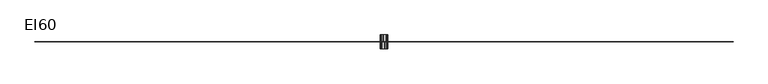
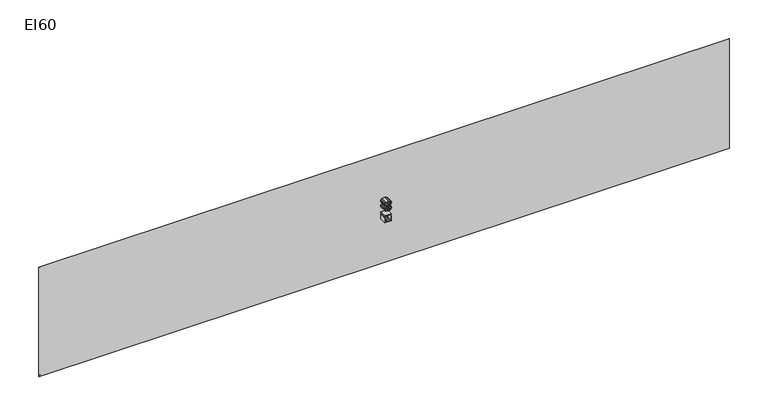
"""IFC4 building model written with IfcOpenShell, lengths in millimetres: proxy geometry, Fire_FireCompartmentationEI : EI60."""

import ifcopenshell
import ifcopenshell.guid

model = None  # the IFC model being written
_history = None  # IfcOwnerHistory: only IFC2X3 demands one
_inside = {}  # id of a spatial element -> (the spatial element, [elements in it])
_under = {}  # id of a project, library or spatial element -> (it, [spatial elements below it])
_declared = {}  # id of a project -> (the project, [libraries it declares])
_typed = {}  # id of a type object -> (the type object, [elements of that type])
_made_of = {}  # id of a material, layer set ... -> (it, [elements and type objects made of it])


def new_model(schema):
    """Start an empty IFC model of exactly this schema.

    Asked for "IFC4X3", IfcOpenShell would pick the latest addendum, in which some entities
    have other attributes; the version numbers below select the first issue.
    IFC2X3 requires an IfcOwnerHistory on every rooted entity: one is made here for all.
    """
    global model, _history
    if schema == "IFC4X3":
        model = ifcopenshell.file(schema_version=(4, 3, 0, 0))
    else:
        model = ifcopenshell.file(schema=schema)
    _inside.clear()
    _under.clear()
    _declared.clear()
    _typed.clear()
    _made_of.clear()
    _history = None
    if model.schema == "IFC2X3":
        org = make("IfcOrganization", Name="unknown")
        user = make(
            "IfcPersonAndOrganization",
            ThePerson=make("IfcPerson", FamilyName="unknown"),
            TheOrganization=org,
        )
        app = make(
            "IfcApplication",
            ApplicationDeveloper=org,
            Version="unknown",
            ApplicationFullName="unknown",
            ApplicationIdentifier="unknown",
        )
        _history = make(
            "IfcOwnerHistory",
            OwningUser=user,
            OwningApplication=app,
            ChangeAction="ADDED",
            CreationDate=0,
        )
    return model


def make(cls, **values):
    """One entity of the class cls with the attributes given. An attribute that is None is left unset."""
    return model.create_entity(
        cls, **{name: value for name, value in values.items() if value is not None}
    )


def rooted(cls, **values):
    """An entity with a GlobalId (a new one), such as an element, a storey or a relation."""
    return make(cls, GlobalId=ifcopenshell.guid.new(), OwnerHistory=_history, **values)


def si_unit(unit_type, name, prefix=None):
    """IfcSIUnit, for example si_unit("LENGTHUNIT", "METRE", prefix="MILLI")."""
    return make("IfcSIUnit", UnitType=unit_type, Prefix=prefix, Name=name)


def assignment(units):
    """IfcUnitAssignment: the units of a project."""
    return None if units is None else make("IfcUnitAssignment", Units=units)


def point(xyz):
    """IfcCartesianPoint."""
    return None if xyz is None else make("IfcCartesianPoint", Coordinates=xyz)


def direction(xyz):
    """IfcDirection."""
    return None if xyz is None else make("IfcDirection", DirectionRatios=xyz)


def frame(location, z_axis=None, x_axis=None):
    """IfcAxis2Placement3D, a coordinate frame: its origin and axes. An axis left out is left unset."""
    return make(
        "IfcAxis2Placement3D",
        Location=point(location),
        Axis=direction(z_axis),
        RefDirection=direction(x_axis),
    )


def frame_2d(location, x_axis=None):
    """IfcAxis2Placement2D, a coordinate frame in the plane: its origin and x axis."""
    return make(
        "IfcAxis2Placement2D", Location=point(location), RefDirection=direction(x_axis)
    )


def origin():
    """The frame at (0, 0, 0) with its axes left unset."""
    return frame((0.0, 0.0, 0.0))


def origin_with_axes():
    """The frame at (0, 0, 0) with the z axis (0, 0, 1) and the x axis (1, 0, 0) written out."""
    return frame((0.0, 0.0, 0.0), z_axis=(0.0, 0.0, 1.0), x_axis=(1.0, 0.0, 0.0))


def place(relative_to, where):
    """IfcLocalPlacement: puts the frame where relative to a parent placement (None: the world)."""
    return make(
        "IfcLocalPlacement", PlacementRelTo=relative_to, RelativePlacement=where
    )


def context(
    kind, dimensions, precision=None, world=None, true_north=None, identifier=None
):
    """IfcGeometricRepresentationContext, for example the 3D "Model" context."""
    return make(
        "IfcGeometricRepresentationContext",
        ContextIdentifier=identifier,
        ContextType=kind,
        CoordinateSpaceDimension=dimensions,
        Precision=precision,
        WorldCoordinateSystem=world,
        TrueNorth=true_north,
    )


def project(units=None, contexts=None):
    """IfcProject with its units and contexts."""
    return rooted(
        "IfcProject",
        Name="project",
        RepresentationContexts=contexts,
        UnitsInContext=assignment(units),
    )


def spatial(cls, under=None, at=None, **own):
    """A site, building, storey or space (cls), placed at a placement, below another one or the project."""
    s = rooted(cls, ObjectPlacement=at, **own)
    if under is not None:
        _under.setdefault(under.id(), (under, []))[1].append(s)
    return s


def polyline(points):
    """IfcPolyline through the points."""
    return make("IfcPolyline", Points=[point(p) for p in points])


def circle_curve(where, radius):
    """IfcCircle in the frame where."""
    return make("IfcCircle", Position=where, Radius=radius)


def trimmed(basis, trim1, trim2, sense, master):
    """IfcTrimmedCurve: the piece of a basis curve between two trims."""
    return make(
        "IfcTrimmedCurve",
        BasisCurve=basis,
        Trim1=trim1,
        Trim2=trim2,
        SenseAgreement=sense,
        MasterRepresentation=master,
    )


def segment(curve, same_sense, transition):
    """IfcCompositeCurveSegment."""
    return make(
        "IfcCompositeCurveSegment",
        Transition=transition,
        SameSense=same_sense,
        ParentCurve=curve,
    )


def composite_curve(segments, self_intersect=None):
    """IfcCompositeCurve: segments joined end to end."""
    return make("IfcCompositeCurve", Segments=segments, SelfIntersect=self_intersect)


def outline(outer, holes=None, kind="AREA"):
    """IfcArbitraryClosedProfileDef: a profile drawn as a closed curve; with holes, ...WithVoids."""
    if holes is None:
        return make("IfcArbitraryClosedProfileDef", ProfileType=kind, OuterCurve=outer)
    return make(
        "IfcArbitraryProfileDefWithVoids",
        ProfileType=kind,
        OuterCurve=outer,
        InnerCurves=holes,
    )


def extrude(swept, where, along, depth):
    """IfcExtrudedAreaSolid: the profile swept, set in the frame where, extruded along a direction by depth."""
    return make(
        "IfcExtrudedAreaSolid",
        SweptArea=swept,
        Position=where,
        ExtrudedDirection=direction(along),
        Depth=depth,
    )


def shape(context_of_items, identifier, shape_type, items):
    """IfcShapeRepresentation: the items that make up one representation, for example the "Body"."""
    return make(
        "IfcShapeRepresentation",
        ContextOfItems=context_of_items,
        RepresentationIdentifier=identifier,
        RepresentationType=shape_type,
        Items=items,
    )


def source(mapping_origin, context_of_items, identifier, shape_type, items):
    """IfcRepresentationMap: a shape defined once, which mapped items show again and again."""
    return make(
        "IfcRepresentationMap",
        MappingOrigin=mapping_origin,
        MappedRepresentation=shape(context_of_items, identifier, shape_type, items),
    )


def transform(
    local_origin,
    x_axis=None,
    y_axis=None,
    z_axis=None,
    scale=None,
    scale2=None,
    scale3=None,
    uniform=True,
):
    """IfcCartesianTransformationOperator3D, or its non-uniform kind. x_axis, y_axis, z_axis: its Axis1, 2, 3."""
    if uniform:
        return make(
            "IfcCartesianTransformationOperator3D",
            Axis1=direction(x_axis),
            Axis2=direction(y_axis),
            LocalOrigin=point(local_origin),
            Scale=scale,
            Axis3=direction(z_axis),
        )
    return make(
        "IfcCartesianTransformationOperator3DnonUniform",
        Axis1=direction(x_axis),
        Axis2=direction(y_axis),
        LocalOrigin=point(local_origin),
        Scale=scale,
        Axis3=direction(z_axis),
        Scale2=scale2,
        Scale3=scale3,
    )


def mapped(mapping_source, mapping_target):
    """IfcMappedItem: shows the shape of a source again, moved by a transform."""
    return make(
        "IfcMappedItem", MappingSource=mapping_source, MappingTarget=mapping_target
    )


def made_of(thing, what):
    """Note that an element or type object is made of a material, layer set ...; save() writes the relation."""
    if what is not None:
        _made_of.setdefault(what.id(), (what, []))[1].append(thing)
    return thing


def element(
    cls,
    number,
    at=None,
    inside=None,
    cuts=None,
    type_object=None,
    material=None,
    context=None,
    identifier="Body",
    shape_type=None,
    held_by="IfcProductDefinitionShape",
    body=None,
    shapes=None,
    **own,
):
    """One element of the class cls, such as IfcWall. Its Tag is "e" and its number.

    at: its placement. inside: the storey or other place that contains it. cuts: it is an
    opening in that element (IfcRelVoidsElement). A single representation is given by context,
    identifier, shape_type and body (its items); several are given by shapes. held_by: the class
    of the entity that holds the representations. save() writes the other relations.
    """
    e = rooted(cls, Tag="e%d" % number, ObjectPlacement=at, **own)
    if body is not None:
        shapes = [shape(context, identifier, shape_type, body)]
    if shapes is not None:
        e.Representation = make(held_by, Representations=shapes)
    if inside is not None:
        _inside.setdefault(inside.id(), (inside, []))[1].append(e)
    if cuts is not None:
        rooted(
            "IfcRelVoidsElement", RelatingBuildingElement=cuts, RelatedOpeningElement=e
        )
    if type_object is not None:
        _typed.setdefault(type_object.id(), (type_object, []))[1].append(e)
    return made_of(e, material)


def aggregate(whole, parts):
    """IfcRelAggregates: a whole, such as a stair, and the parts it consists of."""
    return rooted("IfcRelAggregates", RelatingObject=whole, RelatedObjects=parts)


def save(model, path):
    """Write the relations noted so far, then the file.

    IfcRelAggregates (storeys below a building ...), IfcRelContainedInSpatialStructure (elements
    in a storey), IfcRelDefinesByType, IfcRelAssociatesMaterial and IfcRelDeclares: one each for
    every whole, place, type object, material and project.
    """
    for whole, parts in _under.values():
        aggregate(whole, parts)
    for where, things in _inside.values():
        rooted(
            "IfcRelContainedInSpatialStructure",
            RelatedElements=things,
            RelatingStructure=where,
        )
    for kind, things in _typed.values():
        rooted("IfcRelDefinesByType", RelatedObjects=things, RelatingType=kind)
    for what, things in _made_of.values():
        rooted("IfcRelAssociatesMaterial", RelatedObjects=things, RelatingMaterial=what)
    for by, libraries in _declared.values():
        rooted("IfcRelDeclares", RelatingContext=by, RelatedDefinitions=libraries)
    model.write(path)


def ei60_9a6c1946(model_context):
    return source(origin(), model_context, "Body", "SweptSolid", [
        extrude(outline(polyline([(14947.5, -0.5), (0.0, -0.5), (0.0, 0.5), (14947.5, 0.5), (14947.5, -0.5)])), origin_with_axes(), (0.0, 0.0, 1.0), 2500.0),
        extrude(outline(composite_curve([segment(trimmed(circle_curve(frame_2d((28.9488523, 20.9372462)), 4.3000253), [point((27.7936078, 25.0791815))], [point((29.724042, 25.1668205))], False, "CARTESIAN"), True, "CONTINUOUS"), segment(trimmed(circle_curve(frame_2d((29.6833004, 19.2917407)), 5.875221), [point((29.724042, 25.1668205))], [point((32.6283278, 24.3755421))], False, "CARTESIAN"), True, "CONTINUOUS"), segment(trimmed(circle_curve(frame_2d((32.8576867, 20.8662932)), 3.5167361), [point((32.6283278, 24.3755421))], [point((30.6249304, 23.5833197))], True, "CARTESIAN"), True, "CONTINUOUS"), segment(trimmed(circle_curve(frame_2d((10.876956, 53.8348059)), 36.1266511), [point((30.6249304, 23.5833197))], [point((25.8949704, 20.9776277))], False, "CARTESIAN"), True, "CONTINUOUS"), segment(trimmed(circle_curve(frame_2d((21.9041848, 33.757735)), 13.3887083), [point((25.8949704, 20.9776277))], [point((22.6832699, 20.3917132))], False, "CARTESIAN"), True, "CONTINUOUS"), segment(trimmed(circle_curve(frame_2d((20.9508608, 39.8789486)), 19.5640891), [point((22.6832699, 20.3917132))], [point((20.0109811, 20.3374489))], False, "CARTESIAN"), True, "CONTINUOUS"), segment(trimmed(circle_curve(frame_2d((18.2722891, 30.1747881)), 9.9898094), [point((20.0109811, 20.3374489))], [point((25.2489423, 23.0247809))], True, "CARTESIAN"), True, "CONTINUOUS"), segment(trimmed(circle_curve(frame_2d((30.9774835, 18.5323372)), 7.2799887), [point((25.2489423, 23.0247809))], [point((27.7936078, 25.0791815))], False, "CARTESIAN"), True, "CONTINUOUS")], self_intersect=False)), frame((0.0, -0.6, 0.0), z_axis=(0.0, 1.0, 0.0), x_axis=(0.0, 0.0, 1.0)), (0.0, 0.0, 1.0), 1.2),
        extrude(outline(composite_curve([segment(trimmed(circle_curve(frame_2d((34.8553456, 17.4656787)), 4.3823741), [point((35.4675373, 21.8050824))], [point((32.7666638, 21.3182897))], True, "CARTESIAN"), True, "CONTINUOUS"), segment(trimmed(circle_curve(frame_2d((31.0348418, 25.2412811)), 4.2882478), [point((32.7666638, 21.3182897))], [point((31.0556823, 20.9530839))], False, "CARTESIAN"), True, "CONTINUOUS"), segment(trimmed(circle_curve(frame_2d((30.8661112, 26.3534755)), 5.4037178), [point((31.0556823, 20.9530839))], [point((28.4262544, 21.5319337))], False, "CARTESIAN"), True, "CONTINUOUS"), segment(trimmed(circle_curve(frame_2d((28.9867579, 26.8058524)), 5.3036197), [point((28.4262544, 21.5319337))], [point((30.6443727, 21.7679267))], True, "CARTESIAN"), True, "CONTINUOUS"), segment(trimmed(circle_curve(frame_2d((33.7648144, 18.2895153)), 4.6729544), [point((30.6443727, 21.7679267))], [point((32.5632515, 22.8053485))], False, "CARTESIAN"), True, "CONTINUOUS"), segment(trimmed(circle_curve(frame_2d((33.1708117, 19.8529583)), 3.0142556), [point((32.5632515, 22.8053485))], [point((35.4675373, 21.8050824))], False, "CARTESIAN"), True, "CONTINUOUS")], self_intersect=False)), frame((0.0, -0.6, 0.0), z_axis=(0.0, 1.0, 0.0), x_axis=(0.0, 0.0, 1.0)), (0.0, 0.0, 1.0), 1.2),
        extrude(outline(composite_curve([segment(trimmed(circle_curve(frame_2d((26.35828, 17.8501973)), 2.1465167), [point((27.6612009, 19.5560492))], [point((26.6135063, 19.9814864))], True, "CARTESIAN"), True, "CONTINUOUS"), segment(trimmed(circle_curve(frame_2d((25.771558, 13.6747037)), 6.3627341), [point((26.6135063, 19.9814864))], [point((25.1811141, 20.0099828))], True, "CARTESIAN"), True, "CONTINUOUS"), segment(trimmed(circle_curve(frame_2d((27.6708438, 15.0485986)), 5.5510437), [point((25.1811141, 20.0099828))], [point((27.8117089, 20.5978547))], False, "CARTESIAN"), True, "CONTINUOUS"), segment(trimmed(circle_curve(frame_2d((27.9681735, 17.2267436)), 3.3747401), [point((27.8117089, 20.5978547))], [point((29.507487, 20.2299728))], False, "CARTESIAN"), True, "CONTINUOUS"), segment(trimmed(circle_curve(frame_2d((31.5381431, 23.6896238)), 4.0115769), [point((29.507487, 20.2299728))], [point((32.2223971, 19.7368341))], True, "CARTESIAN"), True, "CONTINUOUS"), segment(trimmed(circle_curve(frame_2d((29.9256715, 21.6889582)), 3.0142556), [point((32.2223971, 19.7368341))], [point((29.3181113, 18.736568))], False, "CARTESIAN"), True, "CONTINUOUS"), segment(trimmed(circle_curve(frame_2d((30.5170043, 23.2454076)), 4.6655095), [point((29.3181113, 18.736568))], [point((27.6612009, 19.5560492))], False, "CARTESIAN"), True, "CONTINUOUS")], self_intersect=False)), frame((0.0, -0.6, 0.0), z_axis=(0.0, 1.0, 0.0), x_axis=(0.0, 0.0, 1.0)), (0.0, 0.0, 1.0), 1.2),
        extrude(outline(composite_curve([segment(trimmed(circle_curve(frame_2d((32.8467056, 19.4711557)), 3.5167361), [point((30.6139493, 16.7541292))], [point((32.6173467, 15.9619068))], True, "CARTESIAN"), True, "CONTINUOUS"), segment(trimmed(circle_curve(frame_2d((29.6723193, 21.0457082)), 5.875221), [point((32.6173467, 15.9619068))], [point((29.7130609, 15.1706284))], False, "CARTESIAN"), True, "CONTINUOUS"), segment(trimmed(circle_curve(frame_2d((28.9378712, 19.4002026)), 4.3000253), [point((29.7130609, 15.1706284))], [point((27.7826267, 15.2582674))], False, "CARTESIAN"), True, "CONTINUOUS"), segment(trimmed(circle_curve(frame_2d((30.9665024, 21.8051117)), 7.2799887), [point((27.7826267, 15.2582674))], [point((25.2379612, 17.312668))], False, "CARTESIAN"), True, "CONTINUOUS"), segment(trimmed(circle_curve(frame_2d((18.261308, 10.1626608)), 9.9898094), [point((25.2379612, 17.312668))], [point((20.0, 20.0))], True, "CARTESIAN"), True, "CONTINUOUS"), segment(trimmed(circle_curve(frame_2d((20.9398797, 0.4585003)), 19.5640891), [point((20.0, 20.0))], [point((22.6722888, 19.9457357))], False, "CARTESIAN"), True, "CONTINUOUS"), segment(trimmed(circle_curve(frame_2d((21.8932037, 6.5797139)), 13.3887083), [point((22.6722888, 19.9457357))], [point((25.8839893, 19.3598212))], False, "CARTESIAN"), True, "CONTINUOUS"), segment(trimmed(circle_curve(frame_2d((10.8659749, -13.497357)), 36.1266511), [point((25.8839893, 19.3598212))], [point((30.6139493, 16.7541292))], False, "CARTESIAN"), True, "CONTINUOUS")], self_intersect=False)), frame((0.0, -0.6, 0.0), z_axis=(0.0, 1.0, 0.0), x_axis=(0.0, 0.0, 1.0)), (0.0, 0.0, 1.0), 1.2),
        extrude(outline(polyline([(1022.7960798, 7398.75), (1022.7960798, 7549.4344652), (1131.1005392, 7549.4344652), (1131.1005392, 7530.5989071), (1041.6316379, 7530.5989071), (1041.6316379, 7485.8644565), (1126.3916496, 7485.8644565), (1126.3916496, 7467.0288983), (1041.6316379, 7467.0288983), (1041.6316379, 7417.5855582), (1133.4549839, 7417.5855582), (1133.4549839, 7398.75), (1022.7960798, 7398.75)])), frame((0.0, 0.0, 0.0), z_axis=(0.0, 1.0, 0.0), x_axis=(0.0, 0.0, 1.0)), (0.0, 0.0, 1.0), 150.0),
        extrude(outline(polyline([(7398.75, 150.0), (7549.4344652, 150.0), (7549.4344652, 0.0), (7398.75, 0.0), (7398.75, 150.0)])), frame((0.0, 0.0, 1164.0627659), z_axis=(0.0, 0.0, 1.0), x_axis=(1.0, 0.0, 0.0)), (0.0, 0.0, 1.0), 18.8355582),
        extrude(outline(polyline([(1368.8994608, 7509.4089041), (1350.0639027, 7507.0544594), (1342.926992, 7522.7630206), (1334.3829326, 7528.6399354), (1324.0546456, 7530.5989071), (1307.0584975, 7526.0371703), (1294.2010217, 7508.9122635), (1290.296874, 7494.8821639), (1288.8483387, 7475.3430314), (1305.4582108, 7490.3710109), (1326.0412084, 7495.2822355), (1343.4420268, 7491.9253123), (1358.046942, 7481.8545427), (1367.9521647, 7466.4678783), (1371.2539056, 7447.1632706), (1369.6996042, 7433.6757969), (1365.0366999, 7421.1724076), (1357.6514688, 7410.5682091), (1347.9301871, 7402.7783078), (1336.3143131, 7397.9912434), (1323.2453052, 7396.3955552), (1301.8759598, 7400.6261982), (1284.856819, 7413.318127), (1273.7237902, 7435.7221405), (1270.0127805, 7469.0890375), (1274.1330589, 7506.6038039), (1286.4938939, 7532.254376), (1303.3704805, 7545.1394429), (1325.231868, 7549.4344652), (1341.7589666, 7546.7765178), (1354.9935214, 7538.8026756), (1364.2641477, 7526.1383379), (1368.8994608, 7509.4089041)]), holes=[polyline([(1288.8483387, 7447.4575762), (1293.2077403, 7431.1420097), (1304.7960232, 7419.2962094), (1321.7737773, 7415.2311134), (1334.2035902, 7417.3372378), (1343.9754557, 7423.6556111), (1350.3076245, 7433.5884249), (1352.4183475, 7446.5378712), (1350.3352157, 7458.9676841), (1344.0858203, 7468.445244), (1334.1484079, 7474.446319), (1321.0012251, 7476.4466774), (1308.5898063, 7474.446319), (1298.2109355, 7468.445244), (1291.1889879, 7459.1976103), (1288.8483387, 7447.4575762)])]), frame((0.0, 0.0, 0.0), z_axis=(0.0, 1.0, 0.0), x_axis=(0.0, 0.0, 1.0)), (0.0, 0.0, 1.0), 150.0),
        extrude(outline(polyline([(1387.735019, 7472.878222), (1389.119175, 7496.9974853), (1393.271643, 7516.2331152), (1400.1510363, 7530.8794171), (1409.7159682, 7541.2306967), (1422.0354165, 7547.3835231), (1437.1783591, 7549.4344652), (1459.1777025, 7544.5784229), (1474.3712289, 7530.580513), (1483.2003967, 7508.2868641), (1486.6216993, 7472.878222), (1485.2513389, 7448.8969145), (1481.1402576, 7429.7072699), (1474.302251, 7415.0471724), (1464.7511147, 7404.654506), (1452.4040752, 7398.4602929), (1437.1783591, 7396.3955552), (1417.607037, 7399.9824047), (1402.7446044, 7410.742953), (1391.4874153, 7436.2279783), (1387.735019, 7472.878222)]), holes=[polyline([(1406.5705771, 7472.9150102), (1408.7778691, 7443.286714), (1415.399745, 7426.1388145), (1425.2589825, 7417.9580387), (1437.1783591, 7415.2311134), (1449.0977358, 7417.9672357), (1458.9569733, 7426.1756027), (1465.5788492, 7443.3326993), (1467.7861411, 7472.9150102), (1465.6524256, 7501.8765203), (1459.2512789, 7519.157777), (1449.4104355, 7527.7386246), (1436.9576299, 7530.5989071), (1425.167012, 7528.0789154), (1415.6940506, 7520.5189404), (1408.8514455, 7502.1616288), (1406.5705771, 7472.9150102)])]), frame((0.0, 0.0, 0.0), z_axis=(0.0, 1.0, 0.0), x_axis=(0.0, 0.0, 1.0)), (0.0, 0.0, 1.0), 150.0),
        extrude(outline(polyline([(1022.7960798, 7548.75), (1133.4549839, 7548.75), (1133.4549839, 7529.9144418), (1041.6316379, 7529.9144418), (1041.6316379, 7480.4711017), (1126.3916496, 7480.4711017), (1126.3916496, 7461.6355435), (1041.6316379, 7461.6355435), (1041.6316379, 7416.9010929), (1131.1005392, 7416.9010929), (1131.1005392, 7398.0655348), (1022.7960798, 7398.0655348), (1022.7960798, 7548.75)])), frame((0.0, -150.0, 0.0), z_axis=(0.0, 1.0, 0.0), x_axis=(0.0, 0.0, 1.0)), (0.0, 0.0, 1.0), 150.0),
        extrude(outline(polyline([(7548.75, -150.0), (7398.0655348, -150.0), (7398.0655348, 0.0), (7548.75, 0.0), (7548.75, -150.0)])), frame((0.0, 0.0, 1164.0627659), z_axis=(0.0, 0.0, 1.0), x_axis=(1.0, 0.0, 0.0)), (0.0, 0.0, 1.0), 18.8355582),
        extrude(outline(polyline([(1368.8994608, 7438.0910959), (1364.2641477, 7421.3616621), (1354.9935214, 7408.6973244), (1341.7589666, 7400.7234822), (1325.231868, 7398.0655348), (1303.3704805, 7402.3605571), (1286.4938939, 7415.245624), (1274.1330589, 7440.8961961), (1270.0127805, 7478.4109625), (1273.7237902, 7511.7778595), (1284.856819, 7534.181873), (1301.8759598, 7546.8738018), (1323.2453052, 7551.1044448), (1336.3143131, 7549.5087566), (1347.9301871, 7544.7216922), (1357.6514688, 7536.9317909), (1365.0366999, 7526.3275924), (1369.6996042, 7513.8242031), (1371.2539056, 7500.3367294), (1367.9521647, 7481.0321217), (1358.046942, 7465.6454573), (1343.4420268, 7455.5746877), (1326.0412084, 7452.2177645), (1305.4582108, 7457.1289891), (1288.8483387, 7472.1569686), (1290.296874, 7452.6178361), (1294.2010217, 7438.5877365), (1307.0584975, 7421.4628297), (1324.0546456, 7416.9010929), (1334.3829326, 7418.8600646), (1342.926992, 7424.7369794), (1350.0639027, 7440.4455406), (1368.8994608, 7438.0910959)]), holes=[polyline([(1288.8483387, 7500.0424238), (1291.1889879, 7488.3023897), (1298.2109355, 7479.054756), (1308.5898063, 7473.053681), (1321.0012251, 7471.0533226), (1334.1484079, 7473.053681), (1344.0858203, 7479.054756), (1350.3352157, 7488.5323159), (1352.4183475, 7500.9621288), (1350.3076245, 7513.9115751), (1343.9754557, 7523.8443889), (1334.2035902, 7530.1627622), (1321.7737773, 7532.2688866), (1304.7960232, 7528.2037906), (1293.2077403, 7516.3579903), (1288.8483387, 7500.0424238)])]), frame((0.0, -150.0, 0.0), z_axis=(0.0, 1.0, 0.0), x_axis=(0.0, 0.0, 1.0)), (0.0, 0.0, 1.0), 150.0),
        extrude(outline(polyline([(1387.735019, 7474.621778), (1391.4874153, 7511.2720217), (1402.7446044, 7536.757047), (1417.607037, 7547.5175953), (1437.1783591, 7551.1044448), (1452.4040752, 7549.0397071), (1464.7511147, 7542.845494), (1474.302251, 7532.4528276), (1481.1402576, 7517.7927301), (1485.2513389, 7498.6030855), (1486.6216993, 7474.621778), (1483.2003967, 7439.2131359), (1474.3712289, 7416.919487), (1459.1777025, 7402.9215771), (1437.1783591, 7398.0655348), (1422.0354165, 7400.1164769), (1409.7159682, 7406.2693033), (1400.1510363, 7416.6205829), (1393.271643, 7431.2668848), (1389.119175, 7450.5025147), (1387.735019, 7474.621778)]), holes=[polyline([(1406.5705771, 7474.5849898), (1408.8514455, 7445.3383712), (1415.6940506, 7426.9810596), (1425.167012, 7419.4210846), (1436.9576299, 7416.9010929), (1449.4104355, 7419.7613754), (1459.2512789, 7428.342223), (1465.6524256, 7445.6234797), (1467.7861411, 7474.5849898), (1465.5788492, 7504.1673007), (1458.9569733, 7521.3243973), (1449.0977358, 7529.5327643), (1437.1783591, 7532.2688866), (1425.2589825, 7529.5419613), (1415.399745, 7521.3611855), (1408.7778691, 7504.213286), (1406.5705771, 7474.5849898)])]), frame((0.0, -150.0, 0.0), z_axis=(0.0, 1.0, 0.0), x_axis=(0.0, 0.0, 1.0)), (0.0, 0.0, 1.0), 150.0),
    ])


if __name__ == "__main__":
    model = new_model("IFC4")
    model_context = context("Model", 3, world=origin())
    ifc_project = project(units=[si_unit("LENGTHUNIT", "METRE", prefix="MILLI")], contexts=[model_context])
    site = spatial("IfcSite", under=ifc_project)
    building = spatial("IfcBuilding", under=site)
    placement = place(None, origin())
    ei60_shape = ei60_9a6c1946(model_context)
    element("IfcBuildingElementProxy", 1, Name="Fire_FireCompartmentationEI : EI60", ObjectType="Fire_FireCompartmentationEI : EI60", at=placement, inside=building, context=model_context, shape_type="MappedRepresentation", body=[
        mapped(ei60_shape, transform((0.0, 0.0, 0.0), x_axis=(1.0, 0.0, 0.0), y_axis=(0.0, 1.0, 0.0), z_axis=(0.0, 0.0, 1.0))),
    ])
    save(model, "model.ifc")
